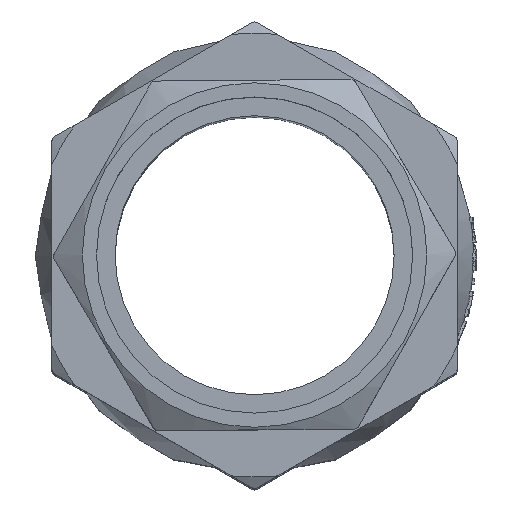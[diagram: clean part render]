
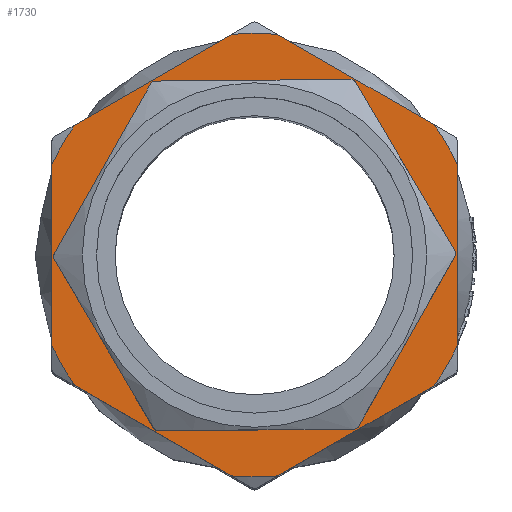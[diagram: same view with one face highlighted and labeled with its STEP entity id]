
A CAD part, top view. The second image highlights one B-rep face of the part: STEP entity #1730.
In plain terms, the highlighted planar face has unit normal (0, 0, 1).
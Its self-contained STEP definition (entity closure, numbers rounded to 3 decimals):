
#1730=ADVANCED_FACE('',(#4479,#4481),#4483,.T.);
#4479=FACE_BOUND('',#4480,.T.);
#4480=EDGE_LOOP('',(#5644,#5645,#5646,#5647,#5648,#5649,#5650,#5651,#5652,#5653,
#5654,#5655));
#4481=FACE_BOUND('',#4482,.T.);
#4482=EDGE_LOOP('',(#5656,#5657,#5658,#5659,#5660,#5661,#5662,#5663,#5664,#5665,
#5666,#5667));
#4483=PLANE('',#4484);
#4484=AXIS2_PLACEMENT_3D('',#4485,#4486,#4487);
#4485=CARTESIAN_POINT('',(0.,31.328,82.));
#4486=DIRECTION('',(0.,0.,1.));
#4487=DIRECTION('',(1.,0.,0.));
#5644=ORIENTED_EDGE('',*,*,#6233,.T.);
#5645=ORIENTED_EDGE('',*,*,#6216,.T.);
#5646=ORIENTED_EDGE('',*,*,#6222,.T.);
#5647=ORIENTED_EDGE('',*,*,#6204,.T.);
#5648=ORIENTED_EDGE('',*,*,#6211,.T.);
#5649=ORIENTED_EDGE('',*,*,#6315,.T.);
#5650=ORIENTED_EDGE('',*,*,#6191,.T.);
#5651=ORIENTED_EDGE('',*,*,#6198,.T.);
#5652=ORIENTED_EDGE('',*,*,#6247,.T.);
#5653=ORIENTED_EDGE('',*,*,#6238,.T.);
#5654=ORIENTED_EDGE('',*,*,#6244,.T.);
#5655=ORIENTED_EDGE('',*,*,#6227,.T.);
#5656=ORIENTED_EDGE('',*,*,#6284,.T.);
#5657=ORIENTED_EDGE('',*,*,#6267,.F.);
#5658=ORIENTED_EDGE('',*,*,#6265,.T.);
#5659=ORIENTED_EDGE('',*,*,#6250,.F.);
#5660=ORIENTED_EDGE('',*,*,#6316,.T.);
#5661=ORIENTED_EDGE('',*,*,#6270,.F.);
#5662=ORIENTED_EDGE('',*,*,#6273,.T.);
#5663=ORIENTED_EDGE('',*,*,#6275,.F.);
#5664=ORIENTED_EDGE('',*,*,#6277,.T.);
#5665=ORIENTED_EDGE('',*,*,#6279,.F.);
#5666=ORIENTED_EDGE('',*,*,#6281,.T.);
#5667=ORIENTED_EDGE('',*,*,#6283,.F.);
#6191=EDGE_CURVE('',#7000,#6998,#7001,.T.);
#6198=EDGE_CURVE('',#6998,#7011,#7013,.T.);
#6204=EDGE_CURVE('',#7024,#7022,#7025,.T.);
#6211=EDGE_CURVE('',#7022,#7035,#7037,.T.);
#6216=EDGE_CURVE('',#7045,#7043,#7046,.T.);
#6222=EDGE_CURVE('',#7043,#7024,#7056,.T.);
#6227=EDGE_CURVE('',#7064,#7062,#7065,.T.);
#6233=EDGE_CURVE('',#7062,#7045,#7075,.T.);
#6238=EDGE_CURVE('',#7083,#7081,#7084,.T.);
#6244=EDGE_CURVE('',#7081,#7064,#7094,.T.);
#6247=EDGE_CURVE('',#7011,#7083,#7097,.T.);
#6250=EDGE_CURVE('',#7101,#7103,#7104,.F.);
#6265=EDGE_CURVE('',#7131,#7103,#7132,.T.);
#6267=EDGE_CURVE('',#7131,#7134,#7135,.F.);
#6270=EDGE_CURVE('',#7137,#7139,#7140,.F.);
#6273=EDGE_CURVE('',#7137,#7142,#7144,.T.);
#6275=EDGE_CURVE('',#7145,#7142,#7147,.F.);
#6277=EDGE_CURVE('',#7145,#7148,#7150,.T.);
#6279=EDGE_CURVE('',#7151,#7148,#7153,.F.);
#6281=EDGE_CURVE('',#7151,#7154,#7156,.T.);
#6283=EDGE_CURVE('',#7157,#7154,#7159,.F.);
#6284=EDGE_CURVE('',#7157,#7134,#7160,.T.);
#6315=EDGE_CURVE('',#7035,#7000,#7198,.T.);
#6316=EDGE_CURVE('',#7101,#7139,#7199,.T.);
#6998=VERTEX_POINT('',#14887);
#7000=VERTEX_POINT('',#14910);
#7001=CIRCLE('',#14911,39.767);
#7011=VERTEX_POINT('',#14988);
#7013=LINE('',#15011,#15012);
#7022=VERTEX_POINT('',#15154);
#7024=VERTEX_POINT('',#15174);
#7025=LINE('',#15175,#15176);
#7035=VERTEX_POINT('',#15245);
#7037=CIRCLE('',#15265,39.767);
#7043=VERTEX_POINT('',#15404);
#7045=VERTEX_POINT('',#15427);
#7046=LINE('',#15428,#15429);
#7056=CIRCLE('',#15507,39.767);
#7062=VERTEX_POINT('',#15646);
#7064=VERTEX_POINT('',#15666);
#7065=LINE('',#15667,#15668);
#7075=CIRCLE('',#15737,39.767);
#7081=VERTEX_POINT('',#15876);
#7083=VERTEX_POINT('',#15896);
#7084=LINE('',#15897,#15898);
#7094=CIRCLE('',#15967,39.767);
#7097=CIRCLE('',#16101,39.767);
#7101=VERTEX_POINT('',#16166);
#7103=VERTEX_POINT('',#16170);
#7104=CIRCLE('',#16171,1.);
#7131=VERTEX_POINT('',#16784);
#7132=LINE('',#16785,#16786);
#7134=VERTEX_POINT('',#16791);
#7135=CIRCLE('',#16792,1.);
#7137=VERTEX_POINT('',#16799);
#7139=VERTEX_POINT('',#16803);
#7140=CIRCLE('',#16804,1.);
#7142=VERTEX_POINT('',#16811);
#7144=LINE('',#16815,#16816);
#7145=VERTEX_POINT('',#16818);
#7147=CIRCLE('',#16822,1.);
#7148=VERTEX_POINT('',#16826);
#7150=LINE('',#16830,#16831);
#7151=VERTEX_POINT('',#16833);
#7153=CIRCLE('',#16837,1.);
#7154=VERTEX_POINT('',#16841);
#7156=LINE('',#16845,#16846);
#7157=VERTEX_POINT('',#16848);
#7159=CIRCLE('',#16852,1.);
#7160=LINE('',#16856,#16857);
#7198=LINE('',#17035,#17036);
#7199=LINE('',#17038,#17039);
#14887=CARTESIAN_POINT('',(36.328,-16.177,82.));
#14910=CARTESIAN_POINT('',(32.173,-23.373,82.));
#14911=AXIS2_PLACEMENT_3D('',#14912,#14913,#14914);
#14912=CARTESIAN_POINT('',(0.,0.,82.));
#14913=DIRECTION('',(0.,0.,1.));
#14914=DIRECTION('',(0.809,-0.588,0.));
#14988=CARTESIAN_POINT('',(36.328,16.177,82.));
#15011=CARTESIAN_POINT('',(36.328,-16.177,82.));
#15012=VECTOR('',#15013,1.);
#15013=DIRECTION('',(0.,1.,0.));
#15154=CARTESIAN_POINT('',(-4.155,-39.549,82.));
#15174=CARTESIAN_POINT('',(-32.173,-23.373,82.));
#15175=CARTESIAN_POINT('',(-32.173,-23.373,82.));
#15176=VECTOR('',#15177,1.);
#15177=DIRECTION('',(0.866,-0.5,0.));
#15245=CARTESIAN_POINT('',(4.155,-39.549,82.));
#15265=AXIS2_PLACEMENT_3D('',#15266,#15267,#15268);
#15266=CARTESIAN_POINT('',(0.,0.,82.));
#15267=DIRECTION('',(0.,0.,1.));
#15268=DIRECTION('',(-0.104,-0.995,0.));
#15404=CARTESIAN_POINT('',(-36.328,-16.177,82.));
#15427=CARTESIAN_POINT('',(-36.328,16.177,82.));
#15428=CARTESIAN_POINT('',(-36.328,16.177,82.));
#15429=VECTOR('',#15430,1.);
#15430=DIRECTION('',(0.,-1.,0.));
#15507=AXIS2_PLACEMENT_3D('',#15508,#15509,#15510);
#15508=CARTESIAN_POINT('',(0.,0.,82.));
#15509=DIRECTION('',(0.,0.,1.));
#15510=DIRECTION('',(-0.914,-0.407,0.));
#15646=CARTESIAN_POINT('',(-32.173,23.373,82.));
#15666=CARTESIAN_POINT('',(-4.155,39.549,82.));
#15667=CARTESIAN_POINT('',(-4.155,39.549,82.));
#15668=VECTOR('',#15669,1.);
#15669=DIRECTION('',(-0.866,-0.5,0.));
#15737=AXIS2_PLACEMENT_3D('',#15738,#15739,#15740);
#15738=CARTESIAN_POINT('',(0.,0.,82.));
#15739=DIRECTION('',(0.,0.,1.));
#15740=DIRECTION('',(-0.809,0.588,0.));
#15876=CARTESIAN_POINT('',(4.155,39.549,82.));
#15896=CARTESIAN_POINT('',(32.173,23.373,82.));
#15897=CARTESIAN_POINT('',(32.173,23.373,82.));
#15898=VECTOR('',#15899,1.);
#15899=DIRECTION('',(-0.866,0.5,0.));
#15967=AXIS2_PLACEMENT_3D('',#15968,#15969,#15970);
#15968=CARTESIAN_POINT('',(0.,0.,82.));
#15969=DIRECTION('',(0.,0.,1.));
#15970=DIRECTION('',(0.104,0.995,0.));
#16101=AXIS2_PLACEMENT_3D('',#16102,#16103,#16104);
#16102=CARTESIAN_POINT('',(0.,0.,82.));
#16103=DIRECTION('',(0.,0.,1.));
#16104=DIRECTION('',(0.914,0.407,0.));
#16166=CARTESIAN_POINT('',(17.77,-31.181,82.));
#16170=CARTESIAN_POINT('',(18.631,-30.674,82.));
#16171=AXIS2_PLACEMENT_3D('',#16172,#16173,#16174);
#16172=CARTESIAN_POINT('',(17.761,-30.181,82.));
#16173=DIRECTION('',(0.,0.,-1.));
#16174=DIRECTION('',(0.87,-0.493,0.));
#16784=CARTESIAN_POINT('',(35.889,-0.202,82.));
#16785=CARTESIAN_POINT('',(35.889,-0.202,82.));
#16786=VECTOR('',#16787,1.);
#16787=DIRECTION('',(-0.493,-0.87,0.));
#16791=CARTESIAN_POINT('',(35.88,0.798,82.));
#16792=AXIS2_PLACEMENT_3D('',#16793,#16794,#16795);
#16793=CARTESIAN_POINT('',(35.019,0.291,82.));
#16794=DIRECTION('',(0.,0.,-1.));
#16795=DIRECTION('',(0.862,0.507,0.));
#16799=CARTESIAN_POINT('',(-18.119,-30.98,82.));
#16803=CARTESIAN_POINT('',(-17.249,-31.472,82.));
#16804=AXIS2_PLACEMENT_3D('',#16805,#16806,#16807);
#16805=CARTESIAN_POINT('',(-17.257,-30.472,82.));
#16806=DIRECTION('',(0.,0.,-1.));
#16807=DIRECTION('',(0.008,-1.,0.));
#16811=CARTESIAN_POINT('',(-35.88,-0.798,82.));
#16815=CARTESIAN_POINT('',(-18.119,-30.98,82.));
#16816=VECTOR('',#16817,1.);
#16817=DIRECTION('',(-0.507,0.862,0.));
#16818=CARTESIAN_POINT('',(-35.889,0.202,82.));
#16822=AXIS2_PLACEMENT_3D('',#16823,#16824,#16825);
#16823=CARTESIAN_POINT('',(-35.019,-0.291,82.));
#16824=DIRECTION('',(0.,0.,-1.));
#16825=DIRECTION('',(-0.862,-0.507,0.));
#16826=CARTESIAN_POINT('',(-18.631,30.674,82.));
#16830=CARTESIAN_POINT('',(-35.889,0.202,82.));
#16831=VECTOR('',#16832,1.);
#16832=DIRECTION('',(0.493,0.87,0.));
#16833=CARTESIAN_POINT('',(-17.77,31.181,82.));
#16837=AXIS2_PLACEMENT_3D('',#16838,#16839,#16840);
#16838=CARTESIAN_POINT('',(-17.761,30.181,82.));
#16839=DIRECTION('',(0.,0.,-1.));
#16840=DIRECTION('',(-0.87,0.493,0.));
#16841=CARTESIAN_POINT('',(17.249,31.472,82.));
#16845=CARTESIAN_POINT('',(-17.77,31.181,82.));
#16846=VECTOR('',#16847,1.);
#16847=DIRECTION('',(1.,0.008,0.));
#16848=CARTESIAN_POINT('',(18.119,30.98,82.));
#16852=AXIS2_PLACEMENT_3D('',#16853,#16854,#16855);
#16853=CARTESIAN_POINT('',(17.257,30.472,82.));
#16854=DIRECTION('',(0.,0.,-1.));
#16855=DIRECTION('',(-0.008,1.,0.));
#16856=CARTESIAN_POINT('',(18.119,30.98,82.));
#16857=VECTOR('',#16858,1.);
#16858=DIRECTION('',(0.507,-0.862,0.));
#17035=CARTESIAN_POINT('',(4.155,-39.549,82.));
#17036=VECTOR('',#17037,1.);
#17037=DIRECTION('',(0.866,0.5,0.));
#17038=CARTESIAN_POINT('',(17.77,-31.181,82.));
#17039=VECTOR('',#17040,1.);
#17040=DIRECTION('',(-1.,-0.008,0.));
